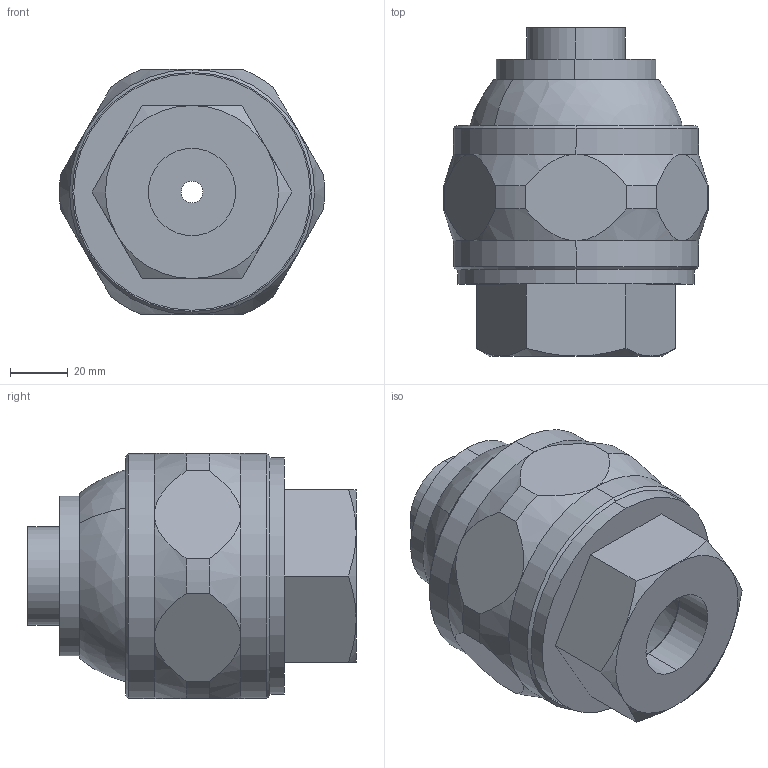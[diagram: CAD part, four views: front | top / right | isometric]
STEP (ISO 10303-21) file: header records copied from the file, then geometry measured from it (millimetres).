
FILE_DESCRIPTION (( 'STEP AP214' ), '1' );
FILE_NAME ('Silvent 735 LA.STEP', '2013-02-15T10:31:33', ( 'silvpesv' ), ( '' ), 'SwSTEP 2.0', 'SolidWorks 2011', '' );
FILE_SCHEMA (( 'AUTOMOTIVE_DESIGN' ));
Length unit declared in the file: millimetre
Products named in the file (5): 720A-735LA_låsring; 735L_propp; 720A-735LA_kula; 720A-735LA_underdel; Silvent 735 LA
Assembly tree (4 placements, depth 2):
  Silvent 735 LA
    720A-735LA_låsring
    735L_propp
    720A-735LA_underdel
    720A-735LA_kula
Bounding box: 91.91 x 113.92 x 85 mm (x, y, z)
Volume: 307278.2 mm3; surface area: 89209.2 mm2
Topology: 4 solids, 4 shells, 95 faces, 209 edges, 127 vertices
Faces by surface type: cylinder 36, cone 30, plane 27, sphere 2
Entity records: 3272 total; most frequent: CARTESIAN_POINT 922, DIRECTION 474, ORIENTED_EDGE 408, EDGE_CURVE 204, AXIS2_PLACEMENT_3D 204, VERTEX_POINT 124, EDGE_LOOP 110, CIRCLE 102
